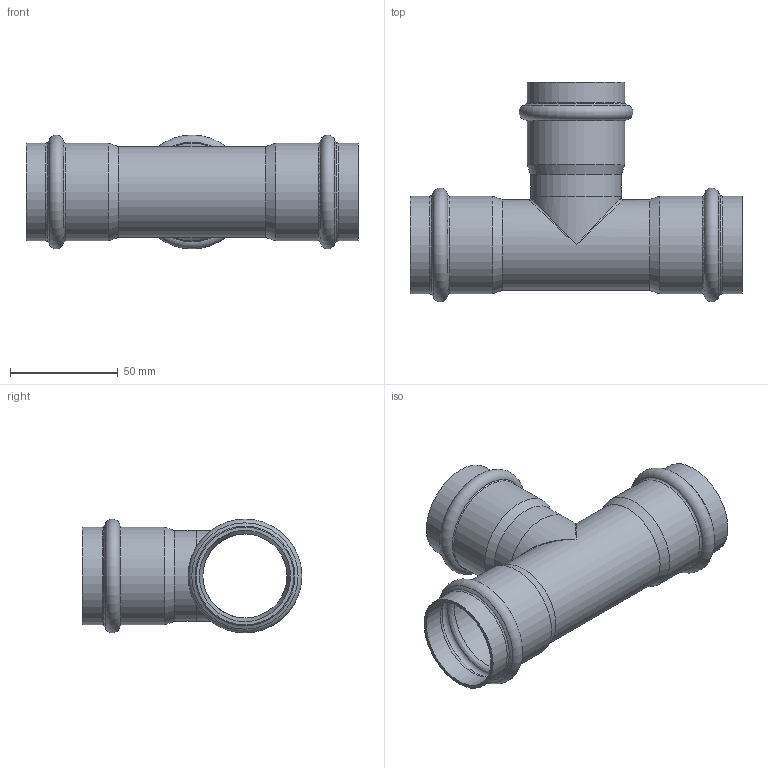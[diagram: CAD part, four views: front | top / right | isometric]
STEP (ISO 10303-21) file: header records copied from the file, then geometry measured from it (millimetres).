
FILE_DESCRIPTION((''),'2;1');
FILE_NAME('G:\Nirosan-Schmiedefeld\Technics\CAD\Bauteile VA\042\6913042(4).stp','2012-10-25T11:16:46',('herberg'),(''),'Autodesk Inventor 2009','Autodesk Inventor 2009','');
FILE_SCHEMA(('AUTOMOTIVE_DESIGN { 1 0 10303 214 1 1 1 1 }'));
Length unit declared in the file: millimetre
Products named in the file (3): 6913042(4); LM_6913042(2); HM_6924342(2)
Assembly tree (2 placements, depth 2):
  6913042(4)
    LM_6913042(2)
    HM_6924342(2)
Bounding box: 154 x 101.89 x 52.8 mm (x, y, z)
Volume: 43849.5 mm3; surface area: 59457.6 mm2
Topology: 2 solids, 2 shells, 57 faces, 127 edges, 66 vertices
Faces by surface type: cylinder 18, bspline 16, cone 12, torus 6, plane 5
Full cylindrical faces by diameter (mm): 39 x3, 42 x3, 42.3 x6, 45.3 x6
Entity records: 2364 total; most frequent: CARTESIAN_POINT 1350, DIRECTION 212, ORIENTED_EDGE 120, EDGE_LOOP 112, AXIS2_PLACEMENT_3D 106, EDGE_CURVE 60, FACE_OUTER_BOUND 57, ADVANCED_FACE 57
